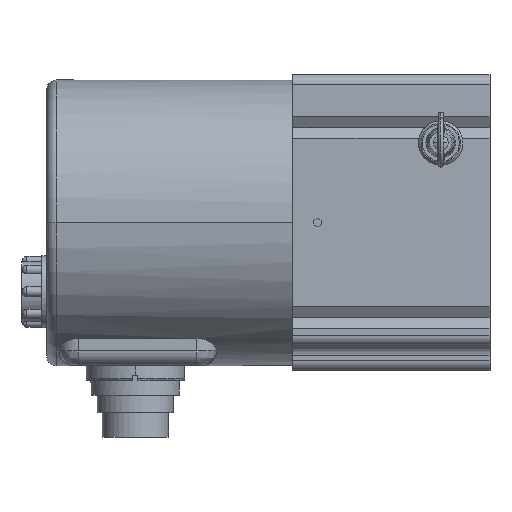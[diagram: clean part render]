
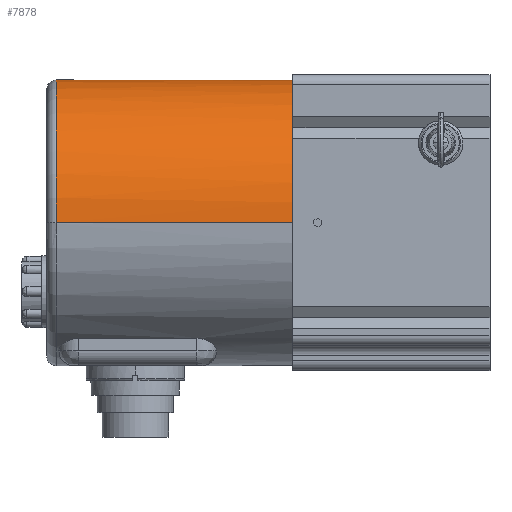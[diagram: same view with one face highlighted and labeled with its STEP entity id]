
A CAD part, top view. The second image highlights one B-rep face of the part: STEP entity #7878.
In plain terms, the highlighted cylindrical face has radius 29 mm (diameter 58 mm), a partial arc.
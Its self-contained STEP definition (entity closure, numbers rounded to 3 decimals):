
#44=CARTESIAN_POINT('',(-40.,0.,0.));
#45=DIRECTION('',(-1.,0.,0.));
#46=DIRECTION('',(0.,0.537,0.843));
#47=AXIS2_PLACEMENT_3D('',#44,#45,#46);
#53=CARTESIAN_POINT('',(-40.,0.,0.));
#54=DIRECTION('',(-1.,0.,0.));
#55=DIRECTION('',(0.,0.843,-0.537));
#56=AXIS2_PLACEMENT_3D('',#53,#54,#55);
#66=CARTESIAN_POINT('',(-40.,0.,0.));
#67=DIRECTION('',(-1.,0.,0.));
#68=DIRECTION('',(0.,0.593,-0.805));
#69=AXIS2_PLACEMENT_3D('',#66,#67,#68);
#118=CARTESIAN_POINT('',(-40.,0.,0.));
#119=DIRECTION('',(1.,0.,0.));
#120=DIRECTION('',(0.,0.537,0.843));
#121=AXIS2_PLACEMENT_3D('',#118,#119,#120);
#205=CARTESIAN_POINT('',(-40.,0.,0.));
#206=DIRECTION('',(1.,0.,0.));
#207=DIRECTION('',(0.,0.,-1.));
#208=AXIS2_PLACEMENT_3D('',#205,#206,#207);
#210=CARTESIAN_POINT('',(-40.,0.,0.));
#211=DIRECTION('',(1.,0.,0.));
#212=DIRECTION('',(0.,0.593,-0.805));
#213=AXIS2_PLACEMENT_3D('',#210,#211,#212);
#246=CARTESIAN_POINT('',(-40.,0.,0.));
#247=DIRECTION('',(1.,0.,0.));
#248=DIRECTION('',(0.,0.843,-0.537));
#249=AXIS2_PLACEMENT_3D('',#246,#247,#248);
#344=DIRECTION('',(-1.,0.,0.));
#345=VECTOR('',#344,48.);
#346=CARTESIAN_POINT('',(-40.,0.,-29.));
#347=LINE('',#346,#345);
#1226=DIRECTION('',(-1.,0.,0.));
#1227=VECTOR('',#1226,48.);
#1228=CARTESIAN_POINT('',(-40.,0.,29.));
#1229=LINE('',#1228,#1227);
#1235=CARTESIAN_POINT('',(-88.,0.,0.));
#1236=DIRECTION('',(1.,0.,0.));
#1237=DIRECTION('',(0.,0.,-1.));
#1238=AXIS2_PLACEMENT_3D('',#1235,#1236,#1237);
#1240=CARTESIAN_POINT('',(-88.,0.,0.));
#1241=DIRECTION('',(1.,0.,0.));
#1242=DIRECTION('',(0.,0.008,-1.));
#1243=AXIS2_PLACEMENT_3D('',#1240,#1241,#1242);
#5546=CARTESIAN_POINT('',(-88.,0.,-29.));
#5547=VERTEX_POINT('',#5546);
#5548=CARTESIAN_POINT('',(-88.,0.218,-28.999));
#5549=CARTESIAN_POINT('',(-88.,0.,29.));
#5550=VERTEX_POINT('',#5548);
#5551=VERTEX_POINT('',#5549);
#5635=CARTESIAN_POINT('',(-40.,0.,29.));
#5637=VERTEX_POINT('',#5635);
#5652=CARTESIAN_POINT('',(-40.,0.,-29.));
#5654=VERTEX_POINT('',#5652);
#5655=CARTESIAN_POINT('',(-40.,15.586,-24.456));
#5656=VERTEX_POINT('',#5655);
#5657=CARTESIAN_POINT('',(-40.,17.194,-23.353));
#5658=CARTESIAN_POINT('',(-40.,23.353,-17.194));
#5659=VERTEX_POINT('',#5657);
#5660=VERTEX_POINT('',#5658);
#5661=CARTESIAN_POINT('',(-40.,24.456,-15.586));
#5662=CARTESIAN_POINT('',(-40.,17.194,23.353));
#5663=VERTEX_POINT('',#5661);
#5664=VERTEX_POINT('',#5662);
#5665=CARTESIAN_POINT('',(-40.,15.586,24.456));
#5666=VERTEX_POINT('',#5665);
#7858=CARTESIAN_POINT('',(-90.,0.,0.));
#7859=DIRECTION('',(1.,0.,0.));
#7860=DIRECTION('',(0.,0.,-1.));
#7861=AXIS2_PLACEMENT_3D('',#7858,#7859,#7860);
#7862=CYLINDRICAL_SURFACE('',#7861,29.);
#7863=ORIENTED_EDGE('',*,*,#6497,.T.);
#7864=ORIENTED_EDGE('',*,*,#6272,.F.);
#7865=ORIENTED_EDGE('',*,*,#6507,.T.);
#7866=ORIENTED_EDGE('',*,*,#6258,.F.);
#7867=ORIENTED_EDGE('',*,*,#6551,.T.);
#7868=ORIENTED_EDGE('',*,*,#6247,.F.);
#7869=ORIENTED_EDGE('',*,*,#6347,.T.);
#7870=ORIENTED_EDGE('',*,*,#6596,.T.);
#7872=ORIENTED_EDGE('',*,*,#7871,.F.);
#7874=ORIENTED_EDGE('',*,*,#7873,.F.);
#7875=ORIENTED_EDGE('',*,*,#6590,.F.);
#7876=EDGE_LOOP('',(#7863,#7864,#7865,#7866,#7867,#7868,#7869,#7870,#7872,#7874,
#7875));
#7877=FACE_OUTER_BOUND('',#7876,.F.);
#7878=ADVANCED_FACE('',(#7877),#7862,.T.);
#48=CIRCLE('',#47,29.);
#57=CIRCLE('',#56,29.);
#70=CIRCLE('',#69,29.);
#122=CIRCLE('',#121,29.);
#209=CIRCLE('',#208,29.);
#214=CIRCLE('',#213,29.);
#250=CIRCLE('',#249,29.);
#1239=CIRCLE('',#1238,29.);
#1244=CIRCLE('',#1243,29.);
#6247=EDGE_CURVE('',#5666,#5664,#48,.T.);
#6258=EDGE_CURVE('',#5663,#5660,#57,.T.);
#6272=EDGE_CURVE('',#5659,#5656,#70,.T.);
#6347=EDGE_CURVE('',#5666,#5637,#122,.T.);
#6497=EDGE_CURVE('',#5654,#5656,#209,.T.);
#6507=EDGE_CURVE('',#5659,#5660,#214,.T.);
#6551=EDGE_CURVE('',#5663,#5664,#250,.T.);
#6590=EDGE_CURVE('',#5654,#5547,#347,.T.);
#6596=EDGE_CURVE('',#5637,#5551,#1229,.T.);
#7871=EDGE_CURVE('',#5550,#5551,#1244,.T.);
#7873=EDGE_CURVE('',#5547,#5550,#1239,.T.);
